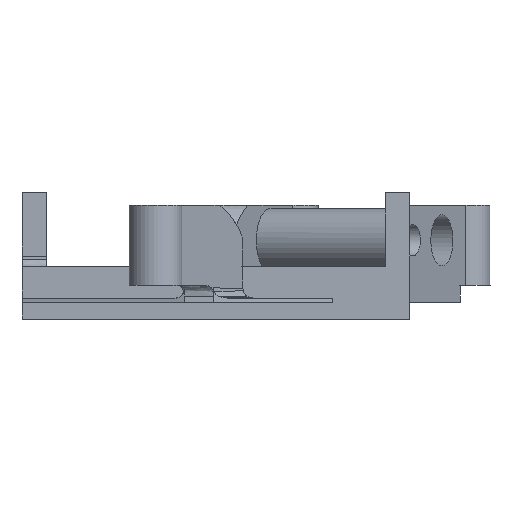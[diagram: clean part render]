
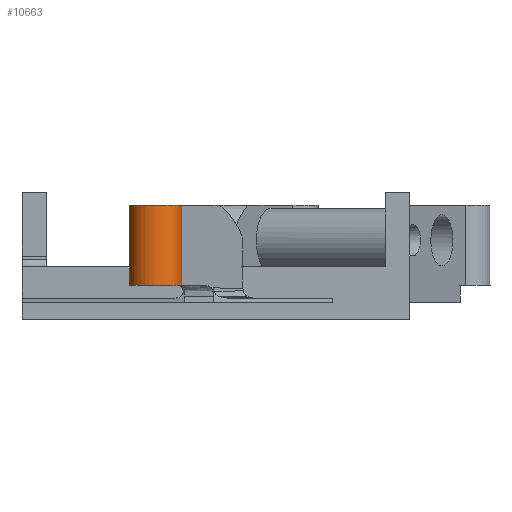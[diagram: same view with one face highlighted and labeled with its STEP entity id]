
A CAD part, left-side view. The second image highlights one B-rep face of the part: STEP entity #10663.
In plain terms, the highlighted cylindrical face has radius 2.5 mm (diameter 5 mm), a partial arc.
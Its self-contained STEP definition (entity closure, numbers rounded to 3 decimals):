
#3326 = PLANE('',#3327);
#3327 = AXIS2_PLACEMENT_3D('',#3328,#3329,#3330);
#3328 = CARTESIAN_POINT('',(213.243,-8.856,
    5.973));
#3329 = DIRECTION('',(-0.561,-0.828,
    0.));
#3330 = DIRECTION('',(0.,0.,1.));
#3945 = VERTEX_POINT('',#3946);
#3946 = CARTESIAN_POINT('',(207.069,-4.676,
    10.8));
#3960 = PLANE('',#3961);
#3961 = AXIS2_PLACEMENT_3D('',#3962,#3963,#3964);
#3962 = CARTESIAN_POINT('',(205.57,-2.54,
    10.8));
#3963 = DIRECTION('',(0.,0.,1.));
#3964 = DIRECTION('',(0.,1.,0.));
#3972 = EDGE_CURVE('',#3945,#3973,#3975,.T.);
#3973 = VERTEX_POINT('',#3974);
#3974 = CARTESIAN_POINT('',(207.069,-4.676,
    3.2));
#3975 = SURFACE_CURVE('',#3976,(#3980,#3987),.PCURVE_S1.);
#3976 = LINE('',#3977,#3978);
#3977 = CARTESIAN_POINT('',(207.069,-4.676,
    10.8));
#3978 = VECTOR('',#3979,1.);
#3979 = DIRECTION('',(0.,0.,-1.));
#3980 = PCURVE('',#3326,#3981);
#3981 = DEFINITIONAL_REPRESENTATION('',(#3982),#3986);
#3982 = LINE('',#3983,#3984);
#3983 = CARTESIAN_POINT('',(4.827,7.456));
#3984 = VECTOR('',#3985,1.);
#3985 = DIRECTION('',(-1.,0.));
#3986 = ( GEOMETRIC_REPRESENTATION_CONTEXT(2) 
PARAMETRIC_REPRESENTATION_CONTEXT() REPRESENTATION_CONTEXT('2D SPACE',''
  ) );
#3987 = PCURVE('',#3988,#3993);
#3988 = CYLINDRICAL_SURFACE('',#3989,2.5);
#3989 = AXIS2_PLACEMENT_3D('',#3990,#3991,#3992);
#3990 = CARTESIAN_POINT('',(205.682,-2.596,7.));
#3991 = DIRECTION('',(0.,0.,1.));
#3992 = DIRECTION('',(0.876,-0.482,0.));
#3993 = DEFINITIONAL_REPRESENTATION('',(#3994),#3998);
#3994 = LINE('',#3995,#3996);
#3995 = CARTESIAN_POINT('',(5.803,3.8));
#3996 = VECTOR('',#3997,1.);
#3997 = DIRECTION('',(0.,-1.));
#3998 = ( GEOMETRIC_REPRESENTATION_CONTEXT(2) 
PARAMETRIC_REPRESENTATION_CONTEXT() REPRESENTATION_CONTEXT('2D SPACE',''
  ) );
#4016 = PLANE('',#4017);
#4017 = AXIS2_PLACEMENT_3D('',#4018,#4019,#4020);
#4018 = CARTESIAN_POINT('',(205.557,-2.531,
    3.2));
#4019 = DIRECTION('',(-0.,-0.,-1.));
#4020 = DIRECTION('',(0.,-1.,0.));
#4651 = PLANE('',#4652);
#4652 = AXIS2_PLACEMENT_3D('',#4653,#4654,#4655);
#4653 = CARTESIAN_POINT('',(213.208,-6.054,
    5.882));
#4654 = DIRECTION('',(0.561,0.828,0.)
  );
#4655 = DIRECTION('',(0.,0.,-1.));
#4774 = VERTEX_POINT('',#4775);
#4775 = CARTESIAN_POINT('',(208.181,-2.652,
    3.2));
#4796 = EDGE_CURVE('',#4774,#4797,#4799,.T.);
#4797 = VERTEX_POINT('',#4798);
#4798 = CARTESIAN_POINT('',(208.181,-2.652,
    10.8));
#4799 = SURFACE_CURVE('',#4800,(#4804,#4811),.PCURVE_S1.);
#4800 = LINE('',#4801,#4802);
#4801 = CARTESIAN_POINT('',(208.181,-2.652,
    3.2));
#4802 = VECTOR('',#4803,1.);
#4803 = DIRECTION('',(0.,0.,1.));
#4804 = PCURVE('',#4651,#4805);
#4805 = DEFINITIONAL_REPRESENTATION('',(#4806),#4810);
#4806 = LINE('',#4807,#4808);
#4807 = CARTESIAN_POINT('',(2.682,6.07));
#4808 = VECTOR('',#4809,1.);
#4809 = DIRECTION('',(-1.,0.));
#4810 = ( GEOMETRIC_REPRESENTATION_CONTEXT(2) 
PARAMETRIC_REPRESENTATION_CONTEXT() REPRESENTATION_CONTEXT('2D SPACE',''
  ) );
#4811 = PCURVE('',#3988,#4812);
#4812 = DEFINITIONAL_REPRESENTATION('',(#4813),#4817);
#4813 = LINE('',#4814,#4815);
#4814 = CARTESIAN_POINT('',(0.48,-3.8));
#4815 = VECTOR('',#4816,1.);
#4816 = DIRECTION('',(0.,1.));
#4817 = ( GEOMETRIC_REPRESENTATION_CONTEXT(2) 
PARAMETRIC_REPRESENTATION_CONTEXT() REPRESENTATION_CONTEXT('2D SPACE',''
  ) );
#5499 = EDGE_CURVE('',#4797,#3945,#5500,.T.);
#5500 = SURFACE_CURVE('',#5501,(#5506,#5513),.PCURVE_S1.);
#5501 = CIRCLE('',#5502,2.5);
#5502 = AXIS2_PLACEMENT_3D('',#5503,#5504,#5505);
#5503 = CARTESIAN_POINT('',(205.682,-2.596,
    10.8));
#5504 = DIRECTION('',(0.,0.,1.));
#5505 = DIRECTION('',(1.,-0.022,0.));
#5506 = PCURVE('',#3960,#5507);
#5507 = DEFINITIONAL_REPRESENTATION('',(#5508),#5512);
#5508 = CIRCLE('',#5509,2.5);
#5509 = AXIS2_PLACEMENT_2D('',#5510,#5511);
#5510 = CARTESIAN_POINT('',(-0.056,-0.112));
#5511 = DIRECTION('',(-0.022,-1.));
#5512 = ( GEOMETRIC_REPRESENTATION_CONTEXT(2) 
PARAMETRIC_REPRESENTATION_CONTEXT() REPRESENTATION_CONTEXT('2D SPACE',''
  ) );
#5513 = PCURVE('',#3988,#5514);
#5514 = DEFINITIONAL_REPRESENTATION('',(#5515),#5519);
#5515 = LINE('',#5516,#5517);
#5516 = CARTESIAN_POINT('',(0.48,3.8));
#5517 = VECTOR('',#5518,1.);
#5518 = DIRECTION('',(1.,0.));
#5519 = ( GEOMETRIC_REPRESENTATION_CONTEXT(2) 
PARAMETRIC_REPRESENTATION_CONTEXT() REPRESENTATION_CONTEXT('2D SPACE',''
  ) );
#9914 = EDGE_CURVE('',#3973,#4774,#9915,.T.);
#9915 = SURFACE_CURVE('',#9916,(#9921,#9928),.PCURVE_S1.);
#9916 = CIRCLE('',#9917,2.5);
#9917 = AXIS2_PLACEMENT_3D('',#9918,#9919,#9920);
#9918 = CARTESIAN_POINT('',(205.682,-2.596,
    3.2));
#9919 = DIRECTION('',(0.,-0.,-1.));
#9920 = DIRECTION('',(0.555,-0.832,0.));
#9921 = PCURVE('',#4016,#9922);
#9922 = DEFINITIONAL_REPRESENTATION('',(#9923),#9927);
#9923 = CIRCLE('',#9924,2.5);
#9924 = AXIS2_PLACEMENT_2D('',#9925,#9926);
#9925 = CARTESIAN_POINT('',(0.065,-0.125));
#9926 = DIRECTION('',(0.832,-0.555));
#9927 = ( GEOMETRIC_REPRESENTATION_CONTEXT(2) 
PARAMETRIC_REPRESENTATION_CONTEXT() REPRESENTATION_CONTEXT('2D SPACE',''
  ) );
#9928 = PCURVE('',#3988,#9929);
#9929 = DEFINITIONAL_REPRESENTATION('',(#9930),#9934);
#9930 = LINE('',#9931,#9932);
#9931 = CARTESIAN_POINT('',(5.803,-3.8));
#9932 = VECTOR('',#9933,1.);
#9933 = DIRECTION('',(-1.,0.));
#9934 = ( GEOMETRIC_REPRESENTATION_CONTEXT(2) 
PARAMETRIC_REPRESENTATION_CONTEXT() REPRESENTATION_CONTEXT('2D SPACE',''
  ) );
#10663 = ADVANCED_FACE('',(#10664),#3988,.T.);
#10664 = FACE_BOUND('',#10665,.T.);
#10665 = EDGE_LOOP('',(#10666,#10667,#10668,#10669));
#10666 = ORIENTED_EDGE('',*,*,#4796,.F.);
#10667 = ORIENTED_EDGE('',*,*,#9914,.F.);
#10668 = ORIENTED_EDGE('',*,*,#3972,.F.);
#10669 = ORIENTED_EDGE('',*,*,#5499,.F.);
